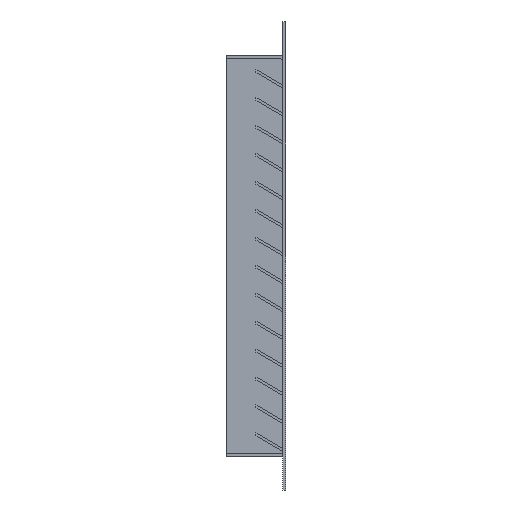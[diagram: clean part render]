
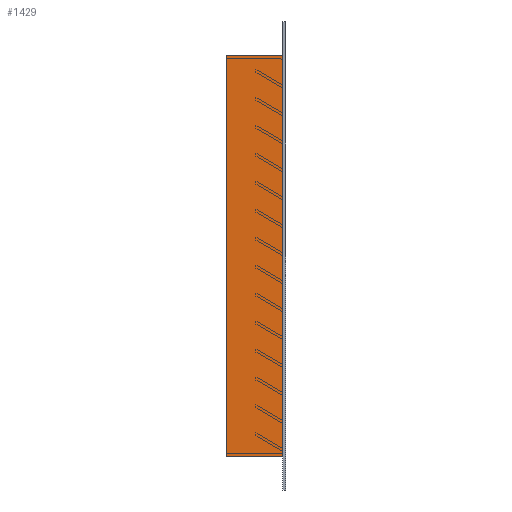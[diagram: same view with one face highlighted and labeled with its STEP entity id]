
A CAD part, left-side view. The second image highlights one B-rep face of the part: STEP entity #1429.
In plain terms, the highlighted planar face has unit normal (-1, 0, 0).
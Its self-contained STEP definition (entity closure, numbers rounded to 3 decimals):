
#80=FACE_OUTER_BOUND('',#154,.T.);
#154=EDGE_LOOP('',(#1279,#1280,#1281,#1282));
#356=LINE('',#2201,#560);
#358=LINE('',#2206,#562);
#359=LINE('',#2207,#563);
#360=LINE('',#2208,#564);
#560=VECTOR('',#1794,10.);
#562=VECTOR('',#1798,10.);
#563=VECTOR('',#1799,10.);
#564=VECTOR('',#1800,10.);
#705=VERTEX_POINT('',#2198);
#706=VERTEX_POINT('',#2200);
#707=VERTEX_POINT('',#2204);
#708=VERTEX_POINT('',#2205);
#900=EDGE_CURVE('',#706,#705,#356,.T.);
#902=EDGE_CURVE('',#707,#708,#358,.T.);
#903=EDGE_CURVE('',#706,#707,#359,.F.);
#904=EDGE_CURVE('',#705,#708,#360,.T.);
#1279=ORIENTED_EDGE('',*,*,#902,.F.);
#1280=ORIENTED_EDGE('',*,*,#903,.F.);
#1281=ORIENTED_EDGE('',*,*,#900,.T.);
#1282=ORIENTED_EDGE('',*,*,#904,.T.);
#1371=PLANE('',#1495);
#1429=ADVANCED_FACE('',(#80),#1371,.T.);
#1495=AXIS2_PLACEMENT_3D('',#2203,#1796,#1797);
#1794=DIRECTION('',(0.,0.,1.));
#1796=DIRECTION('center_axis',(-1.,0.,0.));
#1797=DIRECTION('ref_axis',(0.,0.,1.));
#1798=DIRECTION('',(0.,0.,1.));
#1799=DIRECTION('',(0.,-1.,0.));
#1800=DIRECTION('',(0.,1.,0.));
#2198=CARTESIAN_POINT('',(-351.,-27.,201.));
#2200=CARTESIAN_POINT('',(-351.,-27.,-201.));
#2201=CARTESIAN_POINT('',(-351.,-27.,-99.));
#2203=CARTESIAN_POINT('Origin',(-351.,-30.,-198.));
#2204=CARTESIAN_POINT('',(-351.,30.,-201.));
#2205=CARTESIAN_POINT('',(-351.,30.,201.));
#2206=CARTESIAN_POINT('',(-351.,30.,-99.));
#2207=CARTESIAN_POINT('',(-351.,-30.,-201.));
#2208=CARTESIAN_POINT('',(-351.,-30.,201.));
